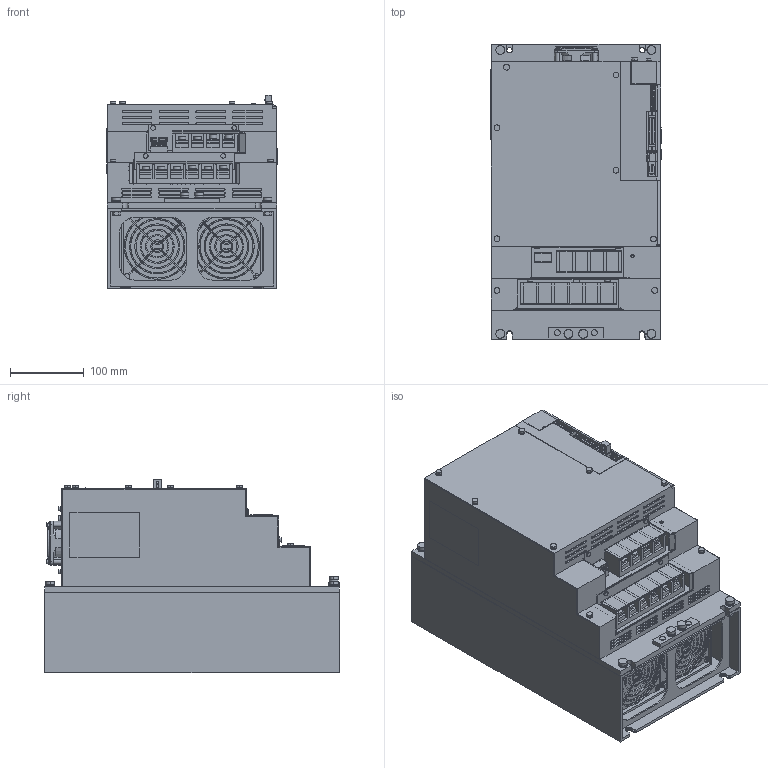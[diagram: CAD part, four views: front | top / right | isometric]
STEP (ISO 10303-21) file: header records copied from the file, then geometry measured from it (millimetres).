
FILE_DESCRIPTION (( 'STEP AP203' ), '1' );
FILE_NAME ('sgdv_370d0_a.STEP', '2009-05-13T13:14:40', ( 'T' ), ( 'T' ), 'SwSTEP 2.0', 'SolidWorks 2006052', '' );
FILE_SCHEMA (( 'CONFIG_CONTROL_DESIGN' ));
Products named in the file (8): sgdv_370d0_a_base; sgdv_370d0_a_cover; sgdv_370d0_a; sgdv_370d0_a_cover5; sgdv_370d0_a_cover2; sgdv_370d0_a_connector; sgdv_370d0_a_cover3; sgdv_370d0_a_cover4
Assembly tree (8 placements, depth 2):
  sgdv_370d0_a
    sgdv_370d0_a_cover5
    sgdv_370d0_a_cover2  x2
    sgdv_370d0_a_cover4
    sgdv_370d0_a_cover3
    sgdv_370d0_a_base
    sgdv_370d0_a_connector
    sgdv_370d0_a_cover
Bounding box: 230.6 x 400 x 263 mm (x, y, z)
Volume: 17421673.4 mm3; surface area: 801045.9 mm2
Topology: 8 solids, 8 shells, 2747 faces, 7652 edges, 5059 vertices
Faces by surface type: plane 2129, cylinder 597, cone 20, sphere 1
Entity records: 88134 total; most frequent: CARTESIAN_POINT 15502, ORIENTED_EDGE 15196, DIRECTION 14530, EDGE_CURVE 7598, VECTOR 6076, LINE 6076, VERTEX_POINT 5023, AXIS2_PLACEMENT_3D 4227
